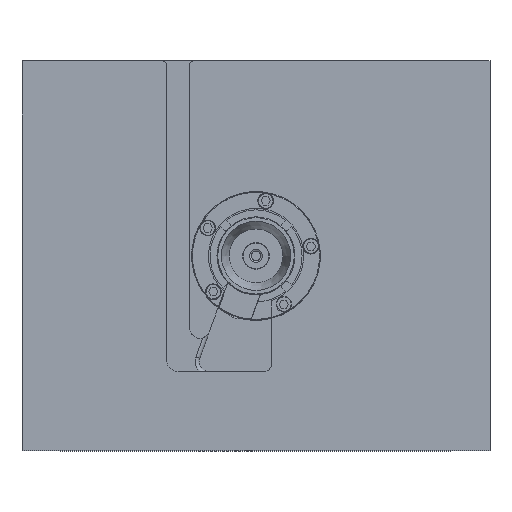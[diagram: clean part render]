
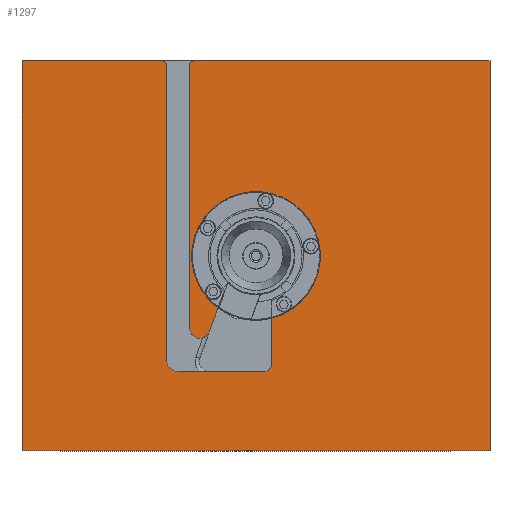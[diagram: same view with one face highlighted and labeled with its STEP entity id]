
A CAD part, top view. The second image highlights one B-rep face of the part: STEP entity #1297.
In plain terms, the highlighted planar face has unit normal (0, 0, 1).
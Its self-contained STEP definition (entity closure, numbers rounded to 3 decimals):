
#1297 = ADVANCED_FACE( '', ( #3050 ), #3051, .F. );
#3050 = FACE_OUTER_BOUND( '', #5657, .T. );
#3051 = PLANE( '', #5658 );
#5657 = EDGE_LOOP( '', ( #8770, #8771, #8772, #8773, #8774, #8775, #8776, #8777, #8778, #8779, #8780, #8781, #8782, #8783, #8784, #8785 ) );
#5658 = AXIS2_PLACEMENT_3D( '', #8786, #8787, #8788 );
#8770 = ORIENTED_EDGE( '', *, *, #13028, .F. );
#8771 = ORIENTED_EDGE( '', *, *, #13029, .T. );
#8772 = ORIENTED_EDGE( '', *, *, #12774, .T. );
#8773 = ORIENTED_EDGE( '', *, *, #13030, .T. );
#8774 = ORIENTED_EDGE( '', *, *, #12486, .T. );
#8775 = ORIENTED_EDGE( '', *, *, #13031, .F. );
#8776 = ORIENTED_EDGE( '', *, *, #13032, .T. );
#8777 = ORIENTED_EDGE( '', *, *, #13033, .F. );
#8778 = ORIENTED_EDGE( '', *, *, #12908, .F. );
#8779 = ORIENTED_EDGE( '', *, *, #13034, .T. );
#8780 = ORIENTED_EDGE( '', *, *, #13035, .F. );
#8781 = ORIENTED_EDGE( '', *, *, #13036, .T. );
#8782 = ORIENTED_EDGE( '', *, *, #13037, .F. );
#8783 = ORIENTED_EDGE( '', *, *, #13038, .F. );
#8784 = ORIENTED_EDGE( '', *, *, #12278, .F. );
#8785 = ORIENTED_EDGE( '', *, *, #13039, .F. );
#8786 = CARTESIAN_POINT( '', ( 300., -250., 0. ) );
#8787 = DIRECTION( '', ( 0., 0., -1. ) );
#8788 = DIRECTION( '', ( 0., -1., 0. ) );
#12278 = EDGE_CURVE( '', #14083, #14084, #14085, .T. );
#12486 = EDGE_CURVE( '', #14432, #14444, #14446, .F. );
#12774 = EDGE_CURVE( '', #14925, #14926, #14927, .T. );
#12908 = EDGE_CURVE( '', #15141, #15142, #15143, .T. );
#13028 = EDGE_CURVE( '', #15335, #15336, #15337, .T. );
#13029 = EDGE_CURVE( '', #15335, #14925, #15338, .F. );
#13030 = EDGE_CURVE( '', #14926, #14432, #15339, .F. );
#13031 = EDGE_CURVE( '', #15340, #14444, #15341, .F. );
#13032 = EDGE_CURVE( '', #15340, #15342, #15343, .F. );
#13033 = EDGE_CURVE( '', #15142, #15342, #15344, .F. );
#13034 = EDGE_CURVE( '', #15141, #15345, #15346, .T. );
#13035 = EDGE_CURVE( '', #15347, #15345, #15348, .F. );
#13036 = EDGE_CURVE( '', #15347, #15349, #15350, .F. );
#13037 = EDGE_CURVE( '', #15351, #15349, #15352, .T. );
#13038 = EDGE_CURVE( '', #14084, #15351, #15353, .T. );
#13039 = EDGE_CURVE( '', #15336, #14083, #15354, .T. );
#14083 = VERTEX_POINT( '', #16739 );
#14084 = VERTEX_POINT( '', #16740 );
#14085 = LINE( '', #16741, #16742 );
#14432 = VERTEX_POINT( '', #17199 );
#14444 = VERTEX_POINT( '', #17217 );
#14446 = LINE( '', #17220, #17221 );
#14925 = VERTEX_POINT( '', #17799 );
#14926 = VERTEX_POINT( '', #17800 );
#14927 = LINE( '', #17801, #17802 );
#15141 = VERTEX_POINT( '', #18156 );
#15142 = VERTEX_POINT( '', #18157 );
#15143 = LINE( '', #18158, #18159 );
#15335 = VERTEX_POINT( '', #18422 );
#15336 = VERTEX_POINT( '', #18423 );
#15337 = LINE( '', #18424, #18425 );
#15338 = CIRCLE( '', #18426, 5. );
#15339 = CIRCLE( '', #18427, 13. );
#15340 = VERTEX_POINT( '', #18428 );
#15341 = CIRCLE( '', #18429, 82.5 );
#15342 = VERTEX_POINT( '', #18430 );
#15343 = LINE( '', #18431, #18432 );
#15344 = CIRCLE( '', #18433, 8.853 );
#15345 = VERTEX_POINT( '', #18434 );
#15346 = CIRCLE( '', #18435, 15. );
#15347 = VERTEX_POINT( '', #18436 );
#15348 = LINE( '', #18437, #18438 );
#15349 = VERTEX_POINT( '', #18439 );
#15350 = CIRCLE( '', #18440, 5. );
#15351 = VERTEX_POINT( '', #18441 );
#15352 = LINE( '', #18442, #18443 );
#15353 = LINE( '', #18444, #18445 );
#15354 = LINE( '', #18446, #18447 );
#16739 = CARTESIAN_POINT( '', ( 300., -250., 0. ) );
#16740 = CARTESIAN_POINT( '', ( -300., -250., 0. ) );
#16741 = CARTESIAN_POINT( '', ( 300., -250., 0. ) );
#16742 = VECTOR( '', #20361, 1000. );
#17199 = CARTESIAN_POINT( '', ( -59.784, -97.008, 0. ) );
#17217 = CARTESIAN_POINT( '', ( -48.711, -66.585, 0. ) );
#17220 = CARTESIAN_POINT( '', ( -66.868, -116.471, 0. ) );
#17221 = VECTOR( '', #20696, 1000. );
#17799 = CARTESIAN_POINT( '', ( -85., 245., 0. ) );
#17800 = CARTESIAN_POINT( '', ( -85., -92.561, 0. ) );
#17801 = CARTESIAN_POINT( '', ( -85., -250., 0. ) );
#17802 = VECTOR( '', #21123, 1000. );
#18156 = CARTESIAN_POINT( '', ( -100., -148., 0. ) );
#18157 = CARTESIAN_POINT( '', ( 11.147, -148., 0. ) );
#18158 = CARTESIAN_POINT( '', ( -60.404, -148., 0. ) );
#18159 = VECTOR( '', #21292, 1000. );
#18422 = CARTESIAN_POINT( '', ( -80., 250., 0. ) );
#18423 = CARTESIAN_POINT( '', ( 300., 250., 0. ) );
#18424 = CARTESIAN_POINT( '', ( -300., 250., 0. ) );
#18425 = VECTOR( '', #21450, 1000. );
#18426 = AXIS2_PLACEMENT_3D( '', #21451, #21452, #21453 );
#18427 = AXIS2_PLACEMENT_3D( '', #21454, #21455, #21456 );
#18428 = CARTESIAN_POINT( '', ( 20., -80.039, 0. ) );
#18429 = AXIS2_PLACEMENT_3D( '', #21457, #21458, #21459 );
#18430 = CARTESIAN_POINT( '', ( 20., -139.147, 0. ) );
#18431 = CARTESIAN_POINT( '', ( 20., -250., 0. ) );
#18432 = VECTOR( '', #21460, 1000. );
#18433 = AXIS2_PLACEMENT_3D( '', #21461, #21462, #21463 );
#18434 = CARTESIAN_POINT( '', ( -115., -133., 0. ) );
#18435 = AXIS2_PLACEMENT_3D( '', #21464, #21465, #21466 );
#18436 = CARTESIAN_POINT( '', ( -115., 245., 0. ) );
#18437 = CARTESIAN_POINT( '', ( -115., 260., 0. ) );
#18438 = VECTOR( '', #21467, 1000. );
#18439 = CARTESIAN_POINT( '', ( -120., 250., 0. ) );
#18440 = AXIS2_PLACEMENT_3D( '', #21468, #21469, #21470 );
#18441 = CARTESIAN_POINT( '', ( -300., 250., 0. ) );
#18442 = CARTESIAN_POINT( '', ( -300., 250., 0. ) );
#18443 = VECTOR( '', #21471, 1000. );
#18444 = CARTESIAN_POINT( '', ( -300., -250., 0. ) );
#18445 = VECTOR( '', #21472, 1000. );
#18446 = CARTESIAN_POINT( '', ( 300., 250., 0. ) );
#18447 = VECTOR( '', #21473, 1000. );
#20361 = DIRECTION( '', ( -1., 0., 0. ) );
#20696 = DIRECTION( '', ( -0.342, -0.94, 0. ) );
#21123 = DIRECTION( '', ( 0., -1., 0. ) );
#21292 = DIRECTION( '', ( 1., 0., 0. ) );
#21450 = DIRECTION( '', ( 1., 0., 0. ) );
#21451 = CARTESIAN_POINT( '', ( -80., 245., 0. ) );
#21452 = DIRECTION( '', ( 0., 0., -1. ) );
#21453 = DIRECTION( '', ( -1., 0., 0. ) );
#21454 = CARTESIAN_POINT( '', ( -72., -92.561, 0. ) );
#21455 = DIRECTION( '', ( 0., 0., -1. ) );
#21456 = DIRECTION( '', ( -1., 0., 0. ) );
#21457 = CARTESIAN_POINT( '', ( 0., 0., 0. ) );
#21458 = DIRECTION( '', ( 0., 0., -1. ) );
#21459 = DIRECTION( '', ( -1., 0., 0. ) );
#21460 = DIRECTION( '', ( 0., 1., 0. ) );
#21461 = CARTESIAN_POINT( '', ( 11.147, -139.147, 0. ) );
#21462 = DIRECTION( '', ( 0., 0., -1. ) );
#21463 = DIRECTION( '', ( -1., 0., 0. ) );
#21464 = CARTESIAN_POINT( '', ( -100., -133., 0. ) );
#21465 = DIRECTION( '', ( 0., 0., -1. ) );
#21466 = DIRECTION( '', ( -1., 0., 0. ) );
#21467 = DIRECTION( '', ( 0., 1., 0. ) );
#21468 = CARTESIAN_POINT( '', ( -120., 245., 0. ) );
#21469 = DIRECTION( '', ( 0., 0., -1. ) );
#21470 = DIRECTION( '', ( -1., 0., 0. ) );
#21471 = DIRECTION( '', ( 1., 0., 0. ) );
#21472 = DIRECTION( '', ( 0., 1., 0. ) );
#21473 = DIRECTION( '', ( 0., -1., 0. ) );
